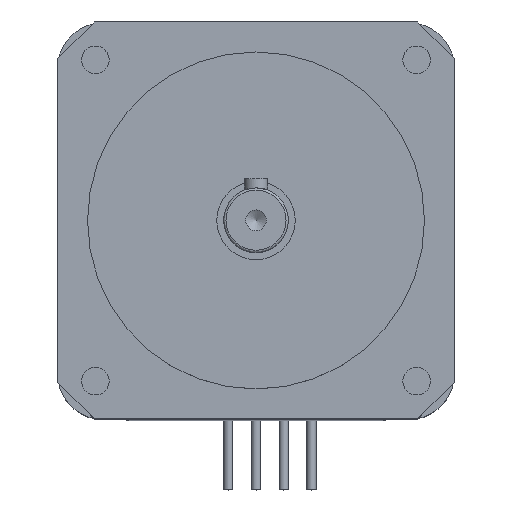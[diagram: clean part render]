
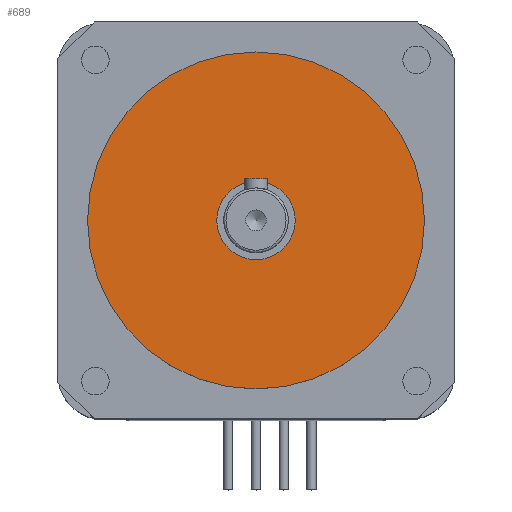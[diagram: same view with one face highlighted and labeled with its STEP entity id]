
A CAD part, top view. The second image highlights one B-rep face of the part: STEP entity #689.
In plain terms, the highlighted planar face has unit normal (0, 0, 1).
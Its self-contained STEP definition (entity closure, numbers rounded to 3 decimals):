
#606=PLANE('',#2267);
#689=ADVANCED_FACE('',(#873,#874),#606,.F.);
#873=FACE_BOUND('',#924,.T.);
#874=FACE_BOUND('',#925,.T.);
#924=EDGE_LOOP('',(#1085));
#925=EDGE_LOOP('',(#1086));
#1085=ORIENTED_EDGE('',*,*,#1871,.F.);
#1086=ORIENTED_EDGE('',*,*,#1862,.F.);
#1658=VERTEX_POINT('',#3139);
#1667=VERTEX_POINT('',#3221);
#1862=EDGE_CURVE('',#1658,#1658,#2155,.T.);
#1871=EDGE_CURVE('',#1667,#1667,#2160,.T.);
#2155=CIRCLE('',#2255,8.5);
#2160=CIRCLE('',#2264,36.5);
#2255=AXIS2_PLACEMENT_3D('',#3138,#2487,#2488);
#2264=AXIS2_PLACEMENT_3D('',#3220,#2507,#2508);
#2267=AXIS2_PLACEMENT_3D('',#3225,#2513,#2514);
#2487=DIRECTION('',(0.,0.,1.));
#2488=DIRECTION('',(1.,0.,0.));
#2507=DIRECTION('',(0.,0.,-1.));
#2508=DIRECTION('',(1.,0.,0.));
#2513=DIRECTION('',(0.,0.,-1.));
#2514=DIRECTION('',(-1.,0.,0.));
#3138=CARTESIAN_POINT('',(0.,0.,2.5));
#3139=CARTESIAN_POINT('',(8.5,0.,2.5));
#3220=CARTESIAN_POINT('',(0.,0.,2.5));
#3221=CARTESIAN_POINT('',(36.5,0.,2.5));
#3225=CARTESIAN_POINT('',(0.,0.,2.5));
